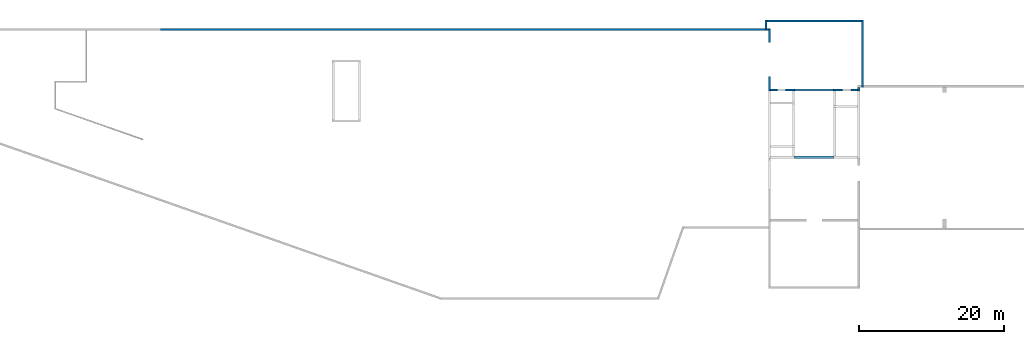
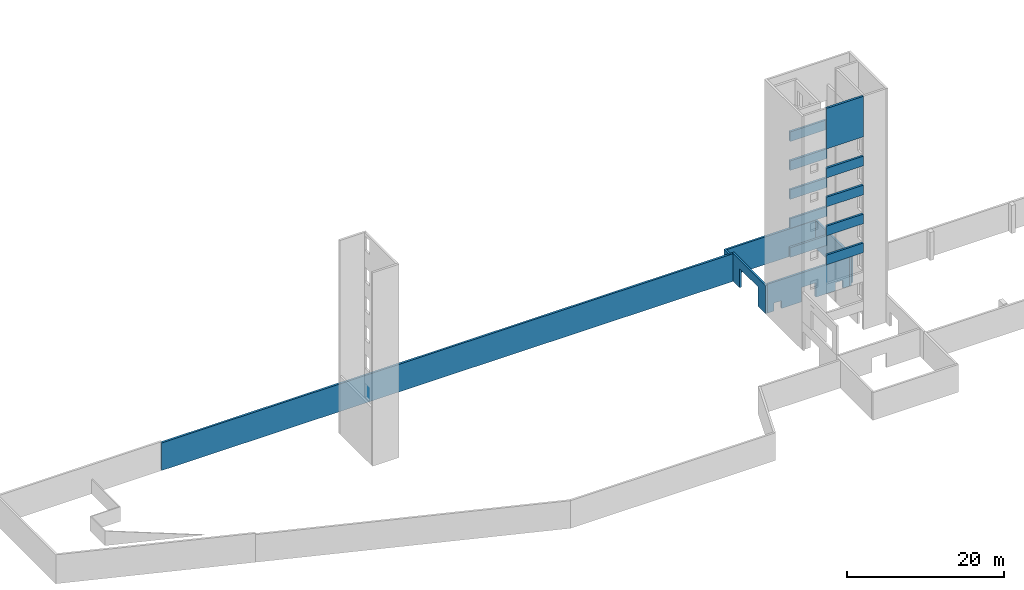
# One storey, part 3 of 4: 17 walls.
"""IFC2X3 building model written with IfcOpenShell, lengths in millimetres."""

from ifc_helpers import new_model, si_unit, origin, place, context, project, spatial, faceted_brep, material, element, save


model = new_model("IFC2X3")

# Units and contexts
context_of_model = context(None, 3, precision=1e-05, world=origin())
ifc_project = project(units=[si_unit("LENGTHUNIT", "METRE", prefix="MILLI")], contexts=[context_of_model])

# Building, storey
building = spatial("IfcBuilding", under=ifc_project, Name="Building", CompositionType="ELEMENT")
storey = spatial("IfcBuildingStorey", under=building, Name="SHRWLS", CompositionType="ELEMENT")

# Walls
ifc_material_1 = material(Name="C5000")
wall_1_placement = place(None, origin())
element("IfcWall", 1, at=wall_1_placement, inside=storey, material=ifc_material_1, Name="Wall107", context=context_of_model, shape_type="Brep", body=[
    faceted_brep([(941.0, 27300.0, -4500.0), (941.0, 27300.0, -3265.0), (941.0, 27000.0, -3265.0), (941.0, 27000.0, -4500.0), (2059.0, 27300.0, -3265.0), (2059.0, 27000.0, -3265.0), (2059.0, 27300.0, -4500.0), (2059.0, 27000.0, -4500.0), (4933.0, 27300.0, -4500.0), (4933.0, 27000.0, -4500.0), (4933.0, 27300.0, -2265.0), (4933.0, 27000.0, -2265.0), (7067.0, 27300.0, -2265.0), (7067.0, 27000.0, -2265.0), (7067.0, 27300.0, -4500.0), (7067.0, 27000.0, -4500.0), (9941.0, 27300.0, -4500.0), (9941.0, 27000.0, -4500.0), (9941.0, 27300.0, -3265.0), (9941.0, 27000.0, -3265.0), (11059.0, 27300.0, -3265.0), (11059.0, 27000.0, -3265.0), (11059.0, 27300.0, -4500.0), (11059.0, 27000.0, -4500.0), (12000.0, 27300.0, -4500.0), (12000.0, 27000.0, -4500.0), (12000.0, 27300.0, 0.0), (12000.0, 27000.0, 0.0), (0.0, 27300.0, 0.0), (0.0, 27000.0, 0.0), (0.0, 27300.0, -4500.0), (0.0, 27000.0, -4500.0)], [[[0, 1, 2, 3]], [[1, 4, 5, 2]], [[4, 6, 7, 5]], [[6, 8, 9, 7]], [[8, 10, 11, 9]], [[10, 12, 13, 11]], [[12, 14, 15, 13]], [[14, 16, 17, 15]], [[16, 18, 19, 17]], [[18, 20, 21, 19]], [[20, 22, 23, 21]], [[22, 24, 25, 23]], [[24, 26, 27, 25]], [[26, 28, 29, 27]], [[28, 30, 31, 29]], [[30, 0, 3, 31]], [[3, 2, 5, 7, 9, 11, 13, 15, 17, 19, 21, 23, 25, 27, 29, 31]], [[0, 30, 28, 26, 24, 22, 20, 18, 16, 14, 12, 10, 8, 6, 4, 1]]]),
])
ifc_material_2 = material(Name="C5000")
wall_2_placement = place(None, origin())
element("IfcWall", 2, at=wall_2_placement, inside=storey, material=ifc_material_2, Name="Wall122", context=context_of_model, shape_type="Brep", body=[
    faceted_brep([(12800.0, 27500.0, -203.2), (12800.0, 36800.0, -203.2), (12500.0, 36800.0, -203.2), (12500.0, 27500.0, -203.2), (12800.0, 36800.0, -4500.0), (12500.0, 36800.0, -4500.0), (12800.0, 27500.0, -4500.0), (12500.0, 27500.0, -4500.0)], [[[0, 1, 2, 3]], [[1, 4, 5, 2]], [[4, 6, 7, 5]], [[6, 0, 3, 7]], [[3, 2, 5, 7]], [[0, 6, 4, 1]]]),
])
ifc_material_3 = material(Name="C5000")
wall_3_placement = place(None, origin())
element("IfcWall", 3, at=wall_3_placement, inside=storey, material=ifc_material_3, Name="Wall132", context=context_of_model, shape_type="Brep", body=[
    faceted_brep([(3300.0, 27300.0, 4500.0), (3300.0, 27300.0, 3000.0), (3300.0, 27000.0, 3000.0), (3300.0, 27000.0, 4500.0), (8700.0, 27300.0, 3000.0), (8700.0, 27000.0, 3000.0), (8700.0, 27300.0, 4500.0), (8700.0, 27000.0, 4500.0)], [[[0, 1, 2, 3]], [[1, 4, 5, 2]], [[4, 6, 7, 5]], [[6, 0, 3, 7]], [[3, 2, 5, 7]], [[0, 6, 4, 1]]]),
])
ifc_material_4 = material(Name="C5000")
wall_4_placement = place(None, origin())
element("IfcWall", 4, at=wall_4_placement, inside=storey, material=ifc_material_4, Name="Wall134", context=context_of_model, shape_type="Brep", body=[
    faceted_brep([(3300.0, 27300.0, 9000.0), (3300.0, 27300.0, 7500.0), (3300.0, 27000.0, 7500.0), (3300.0, 27000.0, 9000.0), (8700.0, 27300.0, 7500.0), (8700.0, 27000.0, 7500.0), (8700.0, 27300.0, 9000.0), (8700.0, 27000.0, 9000.0)], [[[0, 1, 2, 3]], [[1, 4, 5, 2]], [[4, 6, 7, 5]], [[6, 0, 3, 7]], [[3, 2, 5, 7]], [[0, 6, 4, 1]]]),
])
ifc_material_5 = material(Name="C5000")
wall_5_placement = place(None, origin())
element("IfcWall", 5, at=wall_5_placement, inside=storey, material=ifc_material_5, Name="Wall135", context=context_of_model, shape_type="Brep", body=[
    faceted_brep([(3300.0, 18000.0, 9000.0), (3300.0, 18000.0, 7500.0), (3300.0, 17700.0, 7500.0), (3300.0, 17700.0, 9000.0), (8700.0, 18000.0, 7500.0), (8700.0, 17700.0, 7500.0), (8700.0, 18000.0, 9000.0), (8700.0, 17700.0, 9000.0)], [[[0, 1, 2, 3]], [[1, 4, 5, 2]], [[4, 6, 7, 5]], [[6, 0, 3, 7]], [[3, 2, 5, 7]], [[0, 6, 4, 1]]]),
])
ifc_material_6 = material(Name="C5000")
wall_6_placement = place(None, origin())
element("IfcWall", 6, at=wall_6_placement, inside=storey, material=ifc_material_6, Name="Wall136", context=context_of_model, shape_type="Brep", body=[
    faceted_brep([(3300.0, 27300.0, 13500.0), (3300.0, 27300.0, 12000.0), (3300.0, 27000.0, 12000.0), (3300.0, 27000.0, 13500.0), (8700.0, 27300.0, 12000.0), (8700.0, 27000.0, 12000.0), (8700.0, 27300.0, 13500.0), (8700.0, 27000.0, 13500.0)], [[[0, 1, 2, 3]], [[1, 4, 5, 2]], [[4, 6, 7, 5]], [[6, 0, 3, 7]], [[3, 2, 5, 7]], [[0, 6, 4, 1]]]),
])
ifc_material_7 = material(Name="C5000")
wall_7_placement = place(None, origin())
element("IfcWall", 7, at=wall_7_placement, inside=storey, material=ifc_material_7, Name="Wall137", context=context_of_model, shape_type="Brep", body=[
    faceted_brep([(3300.0, 18000.0, 13500.0), (3300.0, 18000.0, 12000.0), (3300.0, 17700.0, 12000.0), (3300.0, 17700.0, 13500.0), (8700.0, 18000.0, 12000.0), (8700.0, 17700.0, 12000.0), (8700.0, 18000.0, 13500.0), (8700.0, 17700.0, 13500.0)], [[[0, 1, 2, 3]], [[1, 4, 5, 2]], [[4, 6, 7, 5]], [[6, 0, 3, 7]], [[3, 2, 5, 7]], [[0, 6, 4, 1]]]),
])
ifc_material_8 = material(Name="C5000")
wall_8_placement = place(None, origin())
element("IfcWall", 8, at=wall_8_placement, inside=storey, material=ifc_material_8, Name="Wall138", context=context_of_model, shape_type="Brep", body=[
    faceted_brep([(3300.0, 27300.0, 18000.0), (3300.0, 27300.0, 16500.0), (3300.0, 27000.0, 16500.0), (3300.0, 27000.0, 18000.0), (8700.0, 27300.0, 16500.0), (8700.0, 27000.0, 16500.0), (8700.0, 27300.0, 18000.0), (8700.0, 27000.0, 18000.0)], [[[0, 1, 2, 3]], [[1, 4, 5, 2]], [[4, 6, 7, 5]], [[6, 0, 3, 7]], [[3, 2, 5, 7]], [[0, 6, 4, 1]]]),
])
ifc_material_9 = material(Name="C5000")
wall_9_placement = place(None, origin())
element("IfcWall", 9, at=wall_9_placement, inside=storey, material=ifc_material_9, Name="Wall139", context=context_of_model, shape_type="Brep", body=[
    faceted_brep([(3300.0, 18000.0, 18000.0), (3300.0, 18000.0, 16500.0), (3300.0, 17700.0, 16500.0), (3300.0, 17700.0, 18000.0), (8700.0, 18000.0, 16500.0), (8700.0, 17700.0, 16500.0), (8700.0, 18000.0, 18000.0), (8700.0, 17700.0, 18000.0)], [[[0, 1, 2, 3]], [[1, 4, 5, 2]], [[4, 6, 7, 5]], [[6, 0, 3, 7]], [[3, 2, 5, 7]], [[0, 6, 4, 1]]]),
])
ifc_material_10 = material(Name="C5000")
wall_10_placement = place(None, origin())
element("IfcWall", 10, at=wall_10_placement, inside=storey, material=ifc_material_10, Name="Wall140", context=context_of_model, shape_type="Brep", body=[
    faceted_brep([(3300.0, 27300.0, 22500.0), (3300.0, 27300.0, 21000.0), (3300.0, 27000.0, 21000.0), (3300.0, 27000.0, 22500.0), (8700.0, 27300.0, 21000.0), (8700.0, 27000.0, 21000.0), (8700.0, 27300.0, 22500.0), (8700.0, 27000.0, 22500.0)], [[[0, 1, 2, 3]], [[1, 4, 5, 2]], [[4, 6, 7, 5]], [[6, 0, 3, 7]], [[3, 2, 5, 7]], [[0, 6, 4, 1]]]),
])
ifc_material_11 = material(Name="C5000")
wall_11_placement = place(None, origin())
element("IfcWall", 11, at=wall_11_placement, inside=storey, material=ifc_material_11, Name="Wall141", context=context_of_model, shape_type="Brep", body=[
    faceted_brep([(3300.0, 18000.0, 22500.0), (3300.0, 18000.0, 21000.0), (3300.0, 17700.0, 21000.0), (3300.0, 17700.0, 22500.0), (8700.0, 18000.0, 21000.0), (8700.0, 17700.0, 21000.0), (8700.0, 18000.0, 22500.0), (8700.0, 17700.0, 22500.0)], [[[0, 1, 2, 3]], [[1, 4, 5, 2]], [[4, 6, 7, 5]], [[6, 0, 3, 7]], [[3, 2, 5, 7]], [[0, 6, 4, 1]]]),
])
ifc_material_12 = material(Name="C5000")
wall_12_placement = place(None, origin())
element("IfcWall", 12, at=wall_12_placement, inside=storey, material=ifc_material_12, Name="Wall164", context=context_of_model, shape_type="Brep", body=[
    faceted_brep([(0.0, 33670.1, -4500.0), (0.0, 33670.1, -1500.0), (-300.0, 33670.1, -1500.0), (-300.0, 33670.1, -4500.0), (0.0, 28970.1, -1500.0), (-300.0, 28970.1, -1500.0), (0.0, 28970.1, -4500.0), (-300.0, 28970.1, -4500.0), (0.0, 27000.0, -4500.0), (-300.0, 27000.0, -4500.0), (0.0, 27000.0, -152.4), (-300.0, 27000.0, -152.4), (0.0, 35542.8, -152.4), (-300.0, 35542.8, -152.4), (0.0, 35542.8, -4500.0), (-300.0, 35542.8, -4500.0)], [[[0, 1, 2, 3]], [[1, 4, 5, 2]], [[4, 6, 7, 5]], [[6, 8, 9, 7]], [[8, 10, 11, 9]], [[10, 12, 13, 11]], [[12, 14, 15, 13]], [[14, 0, 3, 15]], [[3, 2, 5, 7, 9, 11, 13, 15]], [[0, 14, 12, 10, 8, 6, 4, 1]]]),
])
ifc_material_13 = material(Name="C5000")
wall_13_placement = place(None, origin())
element("IfcWall", 13, at=wall_13_placement, inside=storey, material=ifc_material_13, Name="Wall171", context=context_of_model, shape_type="Brep", body=[
    faceted_brep([(-500.0, 36800.0, -203.2), (-500.0, 36800.0, -4500.0), (-500.0, 36500.0, -4500.0), (-500.0, 36500.0, -203.2), (12500.0, 36800.0, -4500.0), (12500.0, 36500.0, -4500.0), (12500.0, 36800.0, -203.2), (12500.0, 36500.0, -203.2)], [[[0, 1, 2, 3]], [[1, 4, 5, 2]], [[4, 6, 7, 5]], [[6, 0, 3, 7]], [[3, 2, 5, 7]], [[0, 6, 4, 1]]]),
])
ifc_material_14 = material(Name="C5000")
wall_14_placement = place(None, origin())
element("IfcWall", 14, at=wall_14_placement, inside=storey, material=ifc_material_14, Name="Wall173", context=context_of_model, shape_type="Brep", body=[
    faceted_brep([(-84254.0, 35618.8, -203.2), (-84254.0, 35618.8, -4500.0), (-84254.0, 35318.8, -4500.0), (-84254.0, 35318.8, -203.2), (0.0, 35618.8, -4500.0), (0.0, 35318.8, -4500.0), (0.0, 35618.8, -203.2), (0.0, 35318.8, -203.2)], [[[0, 1, 2, 3]], [[1, 4, 5, 2]], [[4, 6, 7, 5]], [[6, 0, 3, 7]], [[3, 2, 5, 7]], [[0, 6, 4, 1]]]),
])
ifc_material_15 = material(Name="C4000")
wall_15_placement = place(None, origin())
element("IfcWall", 15, at=wall_15_placement, inside=storey, material=ifc_material_15, Name="Wall183", context=context_of_model, shape_type="Brep", body=[
    faceted_brep([(12300.0, 27500.0, -4500.0), (12300.0, 27000.0, -4500.0), (12000.0, 27000.0, -4500.0), (12000.0, 27500.0, -4500.0), (12300.0, 27000.0, 0.0), (12000.0, 27000.0, 0.0), (12300.0, 27500.0, 0.0), (12000.0, 27500.0, 0.0)], [[[0, 1, 2, 3]], [[1, 4, 5, 2]], [[4, 6, 7, 5]], [[6, 0, 3, 7]], [[3, 2, 5, 7]], [[0, 6, 4, 1]]]),
])
ifc_material_16 = material(Name="C4000")
wall_16_placement = place(None, origin())
element("IfcWall", 16, at=wall_16_placement, inside=storey, material=ifc_material_16, Name="Wall184", context=context_of_model, shape_type="Brep", body=[
    faceted_brep([(-500.0, 36800.0, -4500.0), (-500.0, 35499.8, -4500.0), (-800.0, 35499.8, -4500.0), (-800.0, 36800.0, -4500.0), (-500.0, 35499.8, -203.2), (-800.0, 35499.8, -203.2), (-500.0, 36800.0, -203.2), (-800.0, 36800.0, -203.2)], [[[0, 1, 2, 3]], [[1, 4, 5, 2]], [[4, 6, 7, 5]], [[6, 0, 3, 7]], [[3, 2, 5, 7]], [[0, 6, 4, 1]]]),
])
ifc_material_17 = material(Name="C5000")
wall_17_placement = place(None, origin())
element("IfcWall", 17, at=wall_17_placement, inside=storey, material=ifc_material_17, Name="Wall200", context=context_of_model, shape_type="Brep", body=[
    faceted_brep([(3300.0, 18000.0, 31800.0), (3300.0, 18000.0, 25500.0), (3300.0, 17700.0, 25500.0), (3300.0, 17700.0, 31800.0), (8700.0, 18000.0, 25500.0), (8700.0, 17700.0, 25500.0), (8700.0, 18000.0, 31800.0), (8700.0, 17700.0, 31800.0)], [[[0, 1, 2, 3]], [[1, 4, 5, 2]], [[4, 6, 7, 5]], [[6, 0, 3, 7]], [[3, 2, 5, 7]], [[0, 6, 4, 1]]]),
])

save(model, "model.ifc")
